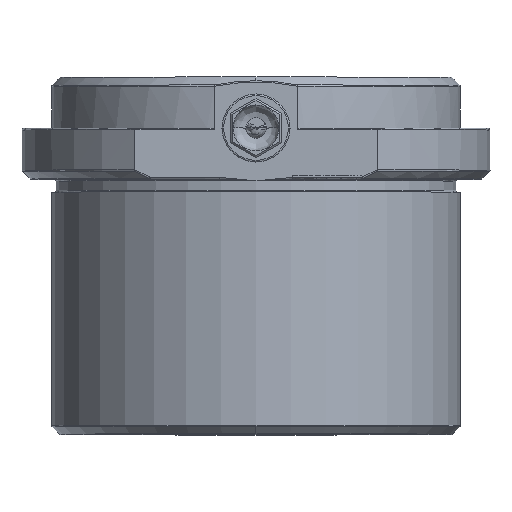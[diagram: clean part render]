
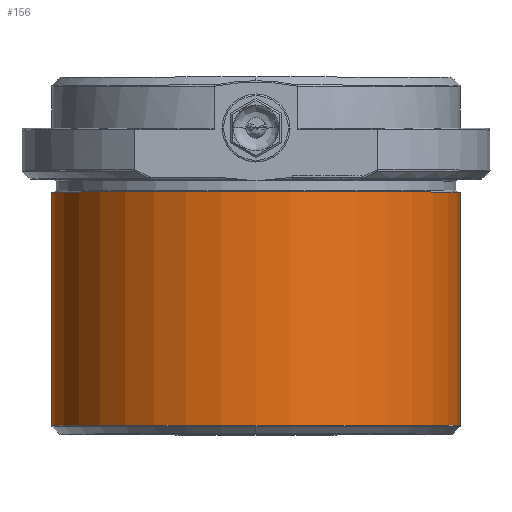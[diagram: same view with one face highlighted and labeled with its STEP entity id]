
A CAD part, top view. The second image highlights one B-rep face of the part: STEP entity #156.
In plain terms, the highlighted face is a revolution surface.
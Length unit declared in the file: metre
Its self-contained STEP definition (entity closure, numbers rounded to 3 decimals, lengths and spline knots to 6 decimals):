
#156 = ADVANCED_FACE( '', ( #299 ), #300, .F. );
#299 = FACE_OUTER_BOUND( '', #800, .T. );
#300 = SURFACE_OF_REVOLUTION( '', #801, #802 );
#800 = EDGE_LOOP( '', ( #2010, #2011, #2012, #2013 ) );
#801 = B_SPLINE_CURVE_WITH_KNOTS( '', 1, ( #2014, #2015 ), .UNSPECIFIED., .F., .F., ( 2, 2 ), ( -10000., 10000. ), .UNSPECIFIED. );
#802 = AXIS1_PLACEMENT( '', #2016, #2017 );
#2010 = ORIENTED_EDGE( '', *, *, #2770, .F. );
#2011 = ORIENTED_EDGE( '', *, *, #2771, .F. );
#2012 = ORIENTED_EDGE( '', *, *, #2768, .F. );
#2013 = ORIENTED_EDGE( '', *, *, #2772, .F. );
#2014 = CARTESIAN_POINT( '', ( 0.024, 10000.0285, 0. ) );
#2015 = CARTESIAN_POINT( '', ( 0.024, -9999.9715, 0. ) );
#2016 = CARTESIAN_POINT( '', ( 0., 0.0285, 0. ) );
#2017 = DIRECTION( '', ( 0., 1., 0. ) );
#2768 = EDGE_CURVE( '', #3092, #3095, #3096, .T. );
#2770 = EDGE_CURVE( '', #3097, #3093, #3099, .F. );
#2771 = EDGE_CURVE( '', #3095, #3097, #3100, .T. );
#2772 = EDGE_CURVE( '', #3093, #3092, #3101, .F. );
#3092 = VERTEX_POINT( '', #4347 );
#3093 = VERTEX_POINT( '', #4348 );
#3095 = VERTEX_POINT( '', #4350 );
#3096 = LINE( '', #4351, #4352 );
#3097 = VERTEX_POINT( '', #4353 );
#3099 = LINE( '', #4355, #4356 );
#3100 = CIRCLE( '', #4357, 0.024 );
#3101 = CIRCLE( '', #4358, 0.024 );
#4347 = CARTESIAN_POINT( '', ( 0.024, 0.0285, 0. ) );
#4348 = CARTESIAN_POINT( '', ( -0.024, 0.0285, 0. ) );
#4350 = CARTESIAN_POINT( '', ( 0.024, 0.001083, 0. ) );
#4351 = CARTESIAN_POINT( '', ( 0.024, 0.0285, 0. ) );
#4352 = VECTOR( '', #5119, 1. );
#4353 = CARTESIAN_POINT( '', ( -0.024, 0.001083, 0. ) );
#4355 = CARTESIAN_POINT( '', ( -0.024, 0.0285, 0. ) );
#4356 = VECTOR( '', #5123, 1. );
#4357 = AXIS2_PLACEMENT_3D( '', #5124, #5125, #5126 );
#4358 = AXIS2_PLACEMENT_3D( '', #5127, #5128, #5129 );
#5119 = DIRECTION( '', ( 0., -1., 0. ) );
#5123 = DIRECTION( '', ( 0., -1., 0. ) );
#5124 = CARTESIAN_POINT( '', ( 0., 0.001083, 0. ) );
#5125 = DIRECTION( '', ( 0., -1., 0. ) );
#5126 = DIRECTION( '', ( 1., 0., 0. ) );
#5127 = CARTESIAN_POINT( '', ( 0., 0.0285, 0. ) );
#5128 = DIRECTION( '', ( 0., -1., 0. ) );
#5129 = DIRECTION( '', ( 1., 0., 0. ) );
